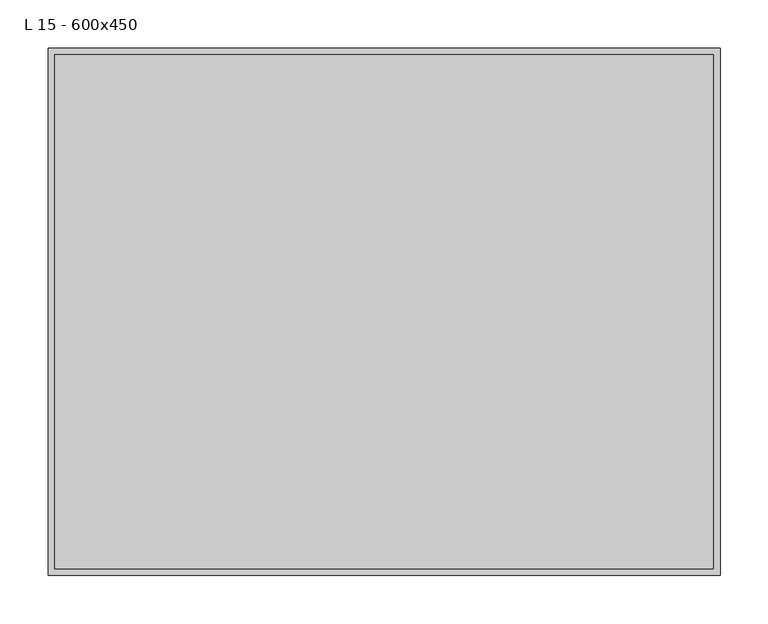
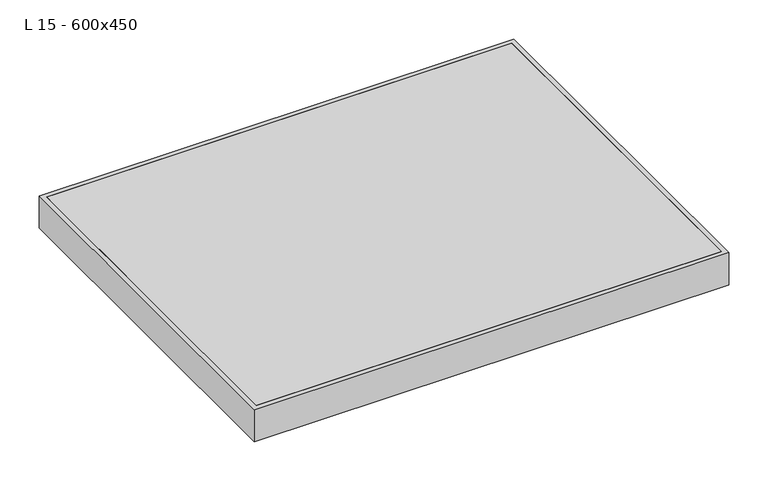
"""IFC4 building model written with IfcOpenShell, lengths in millimetres: proxy geometry, ME_AL_WPB_Access Cover UNIFACE SMART AL_ACO : L 15 - 600x450."""

import ifcopenshell
import ifcopenshell.guid

model = None  # the IFC model being written
_history = None  # IfcOwnerHistory: only IFC2X3 demands one
_inside = {}  # id of a spatial element -> (the spatial element, [elements in it])
_under = {}  # id of a project, library or spatial element -> (it, [spatial elements below it])
_declared = {}  # id of a project -> (the project, [libraries it declares])
_typed = {}  # id of a type object -> (the type object, [elements of that type])
_made_of = {}  # id of a material, layer set ... -> (it, [elements and type objects made of it])


def new_model(schema):
    """Start an empty IFC model of exactly this schema.

    Asked for "IFC4X3", IfcOpenShell would pick the latest addendum, in which some entities
    have other attributes; the version numbers below select the first issue.
    IFC2X3 requires an IfcOwnerHistory on every rooted entity: one is made here for all.
    """
    global model, _history
    if schema == "IFC4X3":
        model = ifcopenshell.file(schema_version=(4, 3, 0, 0))
    else:
        model = ifcopenshell.file(schema=schema)
    _inside.clear()
    _under.clear()
    _declared.clear()
    _typed.clear()
    _made_of.clear()
    _history = None
    if model.schema == "IFC2X3":
        org = make("IfcOrganization", Name="unknown")
        user = make(
            "IfcPersonAndOrganization",
            ThePerson=make("IfcPerson", FamilyName="unknown"),
            TheOrganization=org,
        )
        app = make(
            "IfcApplication",
            ApplicationDeveloper=org,
            Version="unknown",
            ApplicationFullName="unknown",
            ApplicationIdentifier="unknown",
        )
        _history = make(
            "IfcOwnerHistory",
            OwningUser=user,
            OwningApplication=app,
            ChangeAction="ADDED",
            CreationDate=0,
        )
    return model


def make(cls, **values):
    """One entity of the class cls with the attributes given. An attribute that is None is left unset."""
    return model.create_entity(
        cls, **{name: value for name, value in values.items() if value is not None}
    )


def rooted(cls, **values):
    """An entity with a GlobalId (a new one), such as an element, a storey or a relation."""
    return make(cls, GlobalId=ifcopenshell.guid.new(), OwnerHistory=_history, **values)


def si_unit(unit_type, name, prefix=None):
    """IfcSIUnit, for example si_unit("LENGTHUNIT", "METRE", prefix="MILLI")."""
    return make("IfcSIUnit", UnitType=unit_type, Prefix=prefix, Name=name)


def assignment(units):
    """IfcUnitAssignment: the units of a project."""
    return None if units is None else make("IfcUnitAssignment", Units=units)


def point(xyz):
    """IfcCartesianPoint."""
    return None if xyz is None else make("IfcCartesianPoint", Coordinates=xyz)


def direction(xyz):
    """IfcDirection."""
    return None if xyz is None else make("IfcDirection", DirectionRatios=xyz)


def frame(location, z_axis=None, x_axis=None):
    """IfcAxis2Placement3D, a coordinate frame: its origin and axes. An axis left out is left unset."""
    return make(
        "IfcAxis2Placement3D",
        Location=point(location),
        Axis=direction(z_axis),
        RefDirection=direction(x_axis),
    )


def origin():
    """The frame at (0, 0, 0) with its axes left unset."""
    return frame((0.0, 0.0, 0.0))


def place(relative_to, where):
    """IfcLocalPlacement: puts the frame where relative to a parent placement (None: the world)."""
    return make(
        "IfcLocalPlacement", PlacementRelTo=relative_to, RelativePlacement=where
    )


def context(
    kind, dimensions, precision=None, world=None, true_north=None, identifier=None
):
    """IfcGeometricRepresentationContext, for example the 3D "Model" context."""
    return make(
        "IfcGeometricRepresentationContext",
        ContextIdentifier=identifier,
        ContextType=kind,
        CoordinateSpaceDimension=dimensions,
        Precision=precision,
        WorldCoordinateSystem=world,
        TrueNorth=true_north,
    )


def project(units=None, contexts=None):
    """IfcProject with its units and contexts."""
    return rooted(
        "IfcProject",
        Name="project",
        RepresentationContexts=contexts,
        UnitsInContext=assignment(units),
    )


def spatial(cls, under=None, at=None, **own):
    """A site, building, storey or space (cls), placed at a placement, below another one or the project."""
    s = rooted(cls, ObjectPlacement=at, **own)
    if under is not None:
        _under.setdefault(under.id(), (under, []))[1].append(s)
    return s


def polyline(points):
    """IfcPolyline through the points."""
    return make("IfcPolyline", Points=[point(p) for p in points])


def outline(outer, holes=None, kind="AREA"):
    """IfcArbitraryClosedProfileDef: a profile drawn as a closed curve; with holes, ...WithVoids."""
    if holes is None:
        return make("IfcArbitraryClosedProfileDef", ProfileType=kind, OuterCurve=outer)
    return make(
        "IfcArbitraryProfileDefWithVoids",
        ProfileType=kind,
        OuterCurve=outer,
        InnerCurves=holes,
    )


def extrude(swept, where, along, depth):
    """IfcExtrudedAreaSolid: the profile swept, set in the frame where, extruded along a direction by depth."""
    return make(
        "IfcExtrudedAreaSolid",
        SweptArea=swept,
        Position=where,
        ExtrudedDirection=direction(along),
        Depth=depth,
    )


def faces_of(points, faces, orient=None, outer=None):
    """IfcFace entities. A face is a list of loops; a loop is a list of indices into points, from 0.

    orient and outer hold one flag for each loop. By default every Orientation is true, the
    first loop of a face is its IfcFaceOuterBound and the others are IfcFaceBound.
    """
    made = []
    for i, loops in enumerate(faces):
        bounds = []
        for j, loop in enumerate(loops):
            is_outer = j == 0 if outer is None else outer[i][j]
            bounds.append(
                make(
                    "IfcFaceOuterBound" if is_outer else "IfcFaceBound",
                    Bound=make("IfcPolyLoop", Polygon=[points[k] for k in loop]),
                    Orientation=True if orient is None else orient[i][j],
                )
            )
        made.append(make("IfcFace", Bounds=bounds))
    return made


def faceted_brep(points, faces, orient=None, outer=None, voids=None):
    """IfcFacetedBrep: a solid bounded by flat faces; with voids (closed shells), ...WithVoids."""
    shared = [point(p) for p in points]
    hull = make("IfcClosedShell", CfsFaces=faces_of(shared, faces, orient, outer))
    if voids is None:
        return make("IfcFacetedBrep", Outer=hull)
    return make(
        "IfcFacetedBrepWithVoids",
        Outer=hull,
        Voids=[
            make(cls, CfsFaces=faces_of(shared, fs, o, b)) for cls, fs, o, b in voids
        ],
    )


def shape(context_of_items, identifier, shape_type, items):
    """IfcShapeRepresentation: the items that make up one representation, for example the "Body"."""
    return make(
        "IfcShapeRepresentation",
        ContextOfItems=context_of_items,
        RepresentationIdentifier=identifier,
        RepresentationType=shape_type,
        Items=items,
    )


def source(mapping_origin, context_of_items, identifier, shape_type, items):
    """IfcRepresentationMap: a shape defined once, which mapped items show again and again."""
    return make(
        "IfcRepresentationMap",
        MappingOrigin=mapping_origin,
        MappedRepresentation=shape(context_of_items, identifier, shape_type, items),
    )


def transform(
    local_origin,
    x_axis=None,
    y_axis=None,
    z_axis=None,
    scale=None,
    scale2=None,
    scale3=None,
    uniform=True,
):
    """IfcCartesianTransformationOperator3D, or its non-uniform kind. x_axis, y_axis, z_axis: its Axis1, 2, 3."""
    if uniform:
        return make(
            "IfcCartesianTransformationOperator3D",
            Axis1=direction(x_axis),
            Axis2=direction(y_axis),
            LocalOrigin=point(local_origin),
            Scale=scale,
            Axis3=direction(z_axis),
        )
    return make(
        "IfcCartesianTransformationOperator3DnonUniform",
        Axis1=direction(x_axis),
        Axis2=direction(y_axis),
        LocalOrigin=point(local_origin),
        Scale=scale,
        Axis3=direction(z_axis),
        Scale2=scale2,
        Scale3=scale3,
    )


def mapped(mapping_source, mapping_target):
    """IfcMappedItem: shows the shape of a source again, moved by a transform."""
    return make(
        "IfcMappedItem", MappingSource=mapping_source, MappingTarget=mapping_target
    )


def made_of(thing, what):
    """Note that an element or type object is made of a material, layer set ...; save() writes the relation."""
    if what is not None:
        _made_of.setdefault(what.id(), (what, []))[1].append(thing)
    return thing


def element(
    cls,
    number,
    at=None,
    inside=None,
    cuts=None,
    type_object=None,
    material=None,
    context=None,
    identifier="Body",
    shape_type=None,
    held_by="IfcProductDefinitionShape",
    body=None,
    shapes=None,
    **own,
):
    """One element of the class cls, such as IfcWall. Its Tag is "e" and its number.

    at: its placement. inside: the storey or other place that contains it. cuts: it is an
    opening in that element (IfcRelVoidsElement). A single representation is given by context,
    identifier, shape_type and body (its items); several are given by shapes. held_by: the class
    of the entity that holds the representations. save() writes the other relations.
    """
    e = rooted(cls, Tag="e%d" % number, ObjectPlacement=at, **own)
    if body is not None:
        shapes = [shape(context, identifier, shape_type, body)]
    if shapes is not None:
        e.Representation = make(held_by, Representations=shapes)
    if inside is not None:
        _inside.setdefault(inside.id(), (inside, []))[1].append(e)
    if cuts is not None:
        rooted(
            "IfcRelVoidsElement", RelatingBuildingElement=cuts, RelatedOpeningElement=e
        )
    if type_object is not None:
        _typed.setdefault(type_object.id(), (type_object, []))[1].append(e)
    return made_of(e, material)


def aggregate(whole, parts):
    """IfcRelAggregates: a whole, such as a stair, and the parts it consists of."""
    return rooted("IfcRelAggregates", RelatingObject=whole, RelatedObjects=parts)


def save(model, path):
    """Write the relations noted so far, then the file.

    IfcRelAggregates (storeys below a building ...), IfcRelContainedInSpatialStructure (elements
    in a storey), IfcRelDefinesByType, IfcRelAssociatesMaterial and IfcRelDeclares: one each for
    every whole, place, type object, material and project.
    """
    for whole, parts in _under.values():
        aggregate(whole, parts)
    for where, things in _inside.values():
        rooted(
            "IfcRelContainedInSpatialStructure",
            RelatedElements=things,
            RelatingStructure=where,
        )
    for kind, things in _typed.values():
        rooted("IfcRelDefinesByType", RelatedObjects=things, RelatingType=kind)
    for what, things in _made_of.values():
        rooted("IfcRelAssociatesMaterial", RelatedObjects=things, RelatingMaterial=what)
    for by, libraries in _declared.values():
        rooted("IfcRelDeclares", RelatingContext=by, RelatedDefinitions=libraries)
    model.write(path)


def l_15_600x450_7666ee8a(model_context):
    return source(origin(), model_context, "Body", "SolidModel", [
        extrude(outline(polyline([(-342.9, -267.9), (-342.9, 267.9), (342.9, 267.9), (342.9, -267.9), (-342.9, -267.9)])), frame((0.0, 0.0, -5.0), z_axis=(0.0, 0.0, 1.0), x_axis=(1.0, 0.0, 0.0)), (0.0, 0.0, 1.0), 5.0),
        faceted_brep([(-300.0, 225.0, -50.0), (-300.0, 225.0, -48.0), (-300.0, -225.0, -48.0), (-300.0, -225.0, -50.0), (300.0, -225.0, -48.0), (300.0, -225.0, -50.0), (300.0, 225.0, -48.0), (300.0, 225.0, -50.0), (-350.0, -275.0, 0.0), (350.0, -275.0, 0.0), (350.0, 275.0, 0.0), (-350.0, 275.0, 0.0), (-342.9, 267.9, 0.0), (342.9, 267.9, 0.0), (342.9, -267.9, 0.0), (-342.9, -267.9, 0.0), (-342.9, 267.9, -48.0), (-342.9, -267.9, -48.0), (342.9, -267.9, -48.0), (342.9, 267.9, -48.0), (-350.0, 275.0, -50.0), (350.0, 275.0, -50.0), (350.0, -275.0, -50.0), (-350.0, -275.0, -50.0)], [[[0, 1, 2, 3]], [[3, 2, 4, 5]], [[5, 4, 6, 7]], [[8, 9, 10, 11], [12, 13, 14, 15]], [[16, 17, 18, 19], [1, 6, 4, 2]], [[7, 6, 1, 0]], [[20, 21, 22, 23], [3, 5, 7, 0]], [[11, 20, 23, 8]], [[16, 12, 15, 17]], [[8, 23, 22, 9]], [[17, 15, 14, 18]], [[9, 22, 21, 10]], [[18, 14, 13, 19]], [[10, 21, 20, 11]], [[19, 13, 12, 16]]]),
        extrude(outline(polyline([(300.0, 225.0), (300.0, -225.0), (-300.0, -225.0), (-300.0, 225.0), (300.0, 225.0)])), frame((0.0, 0.0, -50.0), z_axis=(0.0, 0.0, 1.0), x_axis=(1.0, 0.0, 0.0)), (0.0, 0.0, 1.0), 2.0),
    ])


if __name__ == "__main__":
    model = new_model("IFC4")
    model_context = context("Model", 3, world=origin())
    ifc_project = project(units=[si_unit("LENGTHUNIT", "METRE", prefix="MILLI")], contexts=[model_context])
    site = spatial("IfcSite", under=ifc_project)
    building = spatial("IfcBuilding", under=site)
    placement = place(None, origin())
    l_15_600x450_shape = l_15_600x450_7666ee8a(model_context)
    element("IfcBuildingElementProxy", 1, Name="ME_AL_WPB_Access Cover UNIFACE SMART AL_ACO : L 15 - 600x450", ObjectType="ME_AL_WPB_Access Cover UNIFACE SMART AL_ACO : L 15 - 600x450", at=placement, inside=building, context=model_context, shape_type="MappedRepresentation", body=[
        mapped(l_15_600x450_shape, transform((0.0, 0.0, 0.0), x_axis=(1.0, 0.0, 0.0), y_axis=(0.0, 1.0, 0.0), z_axis=(0.0, 0.0, 1.0))),
    ])
    save(model, "model.ifc")
